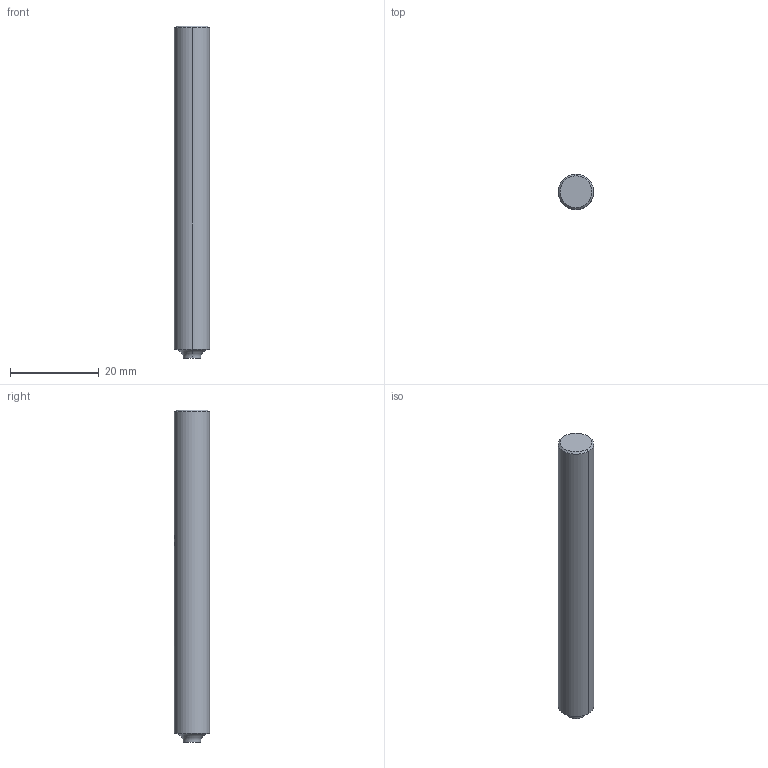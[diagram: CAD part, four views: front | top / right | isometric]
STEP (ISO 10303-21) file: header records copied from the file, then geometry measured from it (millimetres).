
FILE_DESCRIPTION(('no description'),'unknown implementation level');
FILE_NAME('solidELcFSueJXx5f_T0a8G79Ng5HM3I_1.STP',' ',('CIMSOURCE GmbH'),('CADClick - KiM GmbH - www.kimweb.de'),'unknown preprocess','ACIS','unknown authorization');
FILE_SCHEMA(('automotive_design'));
Length unit declared in the file: millimetre
Products named in the file (2): NOCUT; CUT
Bounding box: 8 x 8 x 75 mm (x, y, z)
Volume: 3705.4 mm3; surface area: 2084.7 mm2
Topology: 2 solids, 2 shells, 31 faces, 76 edges, 49 vertices
Faces by surface type: cylinder 14, plane 9, cone 6, torus 2
Entity records: 2062 total; most frequent: CARTESIAN_POINT 390, DIRECTION 167, STYLED_ITEM 158, PRESENTATION_STYLE_ASSIGNMENT 158, COLOUR_RGB 158, ORIENTED_EDGE 152, EDGE_CURVE 76, CURVE_STYLE 76
